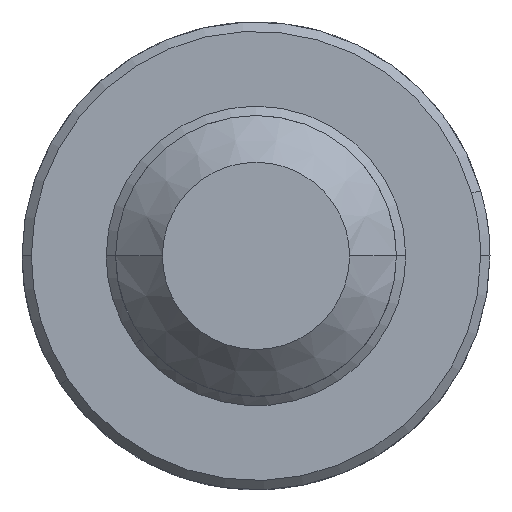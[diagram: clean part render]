
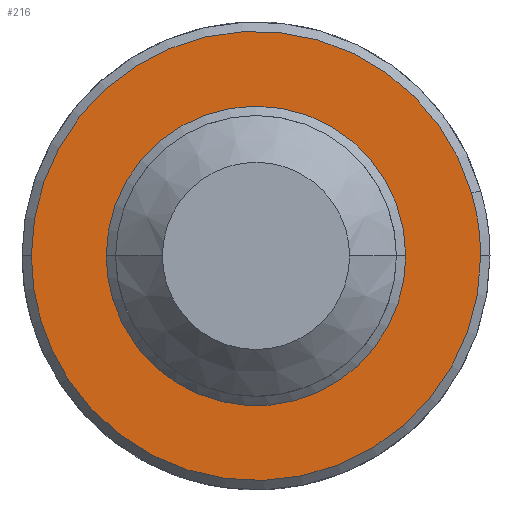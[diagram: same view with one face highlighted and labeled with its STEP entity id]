
A CAD part, front view. The second image highlights one B-rep face of the part: STEP entity #216.
In plain terms, the highlighted planar face has unit normal (0, -1, 0).
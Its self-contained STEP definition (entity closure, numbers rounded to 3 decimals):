
#121=DIRECTION('Axis2P3D Direction',(0.,1.,0.)) ;
#172=DIRECTION('Axis2P3D Direction',(0.,1.,-0.)) ;
#173=DIRECTION('Axis2P3D XDirection',(-1.,0.,0.)) ;
#177=DIRECTION('Axis2P3D Direction',(0.,1.,-0.)) ;
#186=DIRECTION('Axis2P3D Direction',(0.,1.,-0.)) ;
#193=DIRECTION('Axis2P3D Direction',(0.,1.,-0.)) ;
#200=DIRECTION('Axis2P3D Direction',(0.,1.,-0.)) ;
#47=CARTESIAN_POINT('Vertex',(-47.089,15.,-186.881)) ;
#51=CARTESIAN_POINT('Control Point',(-41.3,15.,-185.)) ;
#52=CARTESIAN_POINT('Control Point',(-41.3,15.,-185.804)) ;
#53=CARTESIAN_POINT('Control Point',(-41.553,15.,-186.608)) ;
#54=CARTESIAN_POINT('Control Point',(-42.059,15.,-187.306)) ;
#55=CARTESIAN_POINT('Control Point',(-43.433,15.,-188.284)) ;
#56=CARTESIAN_POINT('Control Point',(-45.119,15.,-188.3)) ;
#57=CARTESIAN_POINT('Control Point',(-45.939,15.,-188.034)) ;
#58=CARTESIAN_POINT('Control Point',(-46.616,15.,-187.532)) ;
#59=CARTESIAN_POINT('Control Point',(-47.089,15.,-186.881)) ;
#60=CARTESIAN_POINT('Vertex',(-41.3,15.,-185.)) ;
#94=CARTESIAN_POINT('Vertex',(-41.3,15.,-184.986)) ;
#103=CARTESIAN_POINT('Control Point',(-41.3,15.,-184.986)) ;
#104=CARTESIAN_POINT('Control Point',(-41.3,15.,-184.99)) ;
#105=CARTESIAN_POINT('Control Point',(-41.3,15.,-184.995)) ;
#106=CARTESIAN_POINT('Control Point',(-41.3,15.,-185.)) ;
#120=CARTESIAN_POINT('Axis2P3D Location',(-44.5,15.,-185.)) ;
#124=CARTESIAN_POINT('Vertex',(-47.7,15.,-185.)) ;
#158=CARTESIAN_POINT('Control Point',(-47.089,15.,-186.881)) ;
#159=CARTESIAN_POINT('Control Point',(-47.384,15.,-186.474)) ;
#160=CARTESIAN_POINT('Control Point',(-47.595,15.,-186.006)) ;
#161=CARTESIAN_POINT('Control Point',(-47.7,15.,-185.503)) ;
#162=CARTESIAN_POINT('Control Point',(-47.7,15.,-185.)) ;
#171=CARTESIAN_POINT('Axis2P3D Location',(0.,15.,0.)) ;
#176=CARTESIAN_POINT('Axis2P3D Location',(-44.5,15.,-185.)) ;
#180=CARTESIAN_POINT('Vertex',(-49.3,15.,-185.)) ;
#182=CARTESIAN_POINT('Vertex',(-48.514,15.,-187.631)) ;
#185=CARTESIAN_POINT('Axis2P3D Location',(-44.5,15.,-185.)) ;
#189=CARTESIAN_POINT('Vertex',(-39.7,15.,-185.)) ;
#192=CARTESIAN_POINT('Axis2P3D Location',(-44.5,15.,-185.)) ;
#196=CARTESIAN_POINT('Vertex',(-39.89,15.,-183.662)) ;
#199=CARTESIAN_POINT('Axis2P3D Location',(-44.5,15.,-185.)) ;
#122=AXIS2_PLACEMENT_3D('Circle Axis2P3D',#120,#121,$) ;
#174=AXIS2_PLACEMENT_3D('Plane Axis2P3D',#171,#172,#173) ;
#178=AXIS2_PLACEMENT_3D('Circle Axis2P3D',#176,#177,$) ;
#187=AXIS2_PLACEMENT_3D('Circle Axis2P3D',#185,#186,$) ;
#194=AXIS2_PLACEMENT_3D('Circle Axis2P3D',#192,#193,$) ;
#201=AXIS2_PLACEMENT_3D('Circle Axis2P3D',#199,#200,$) ;
#215=FACE_BOUND('',#210,.T.) ;
#62=EDGE_CURVE('',#61,#48,#50,.T.) ;
#107=EDGE_CURVE('',#95,#61,#102,.T.) ;
#126=EDGE_CURVE('',#125,#95,#123,.T.) ;
#163=EDGE_CURVE('',#48,#125,#157,.T.) ;
#184=EDGE_CURVE('',#181,#183,#179,.F.) ;
#191=EDGE_CURVE('',#183,#190,#188,.F.) ;
#198=EDGE_CURVE('',#190,#197,#195,.F.) ;
#203=EDGE_CURVE('',#197,#181,#202,.F.) ;
#175=PLANE('Plane',#174) ;
#205=ORIENTED_EDGE('',*,*,#184,.T.) ;
#206=ORIENTED_EDGE('',*,*,#191,.T.) ;
#207=ORIENTED_EDGE('',*,*,#198,.T.) ;
#208=ORIENTED_EDGE('',*,*,#203,.T.) ;
#211=ORIENTED_EDGE('',*,*,#126,.T.) ;
#212=ORIENTED_EDGE('',*,*,#107,.T.) ;
#213=ORIENTED_EDGE('',*,*,#62,.T.) ;
#214=ORIENTED_EDGE('',*,*,#163,.T.) ;
#216=ADVANCED_FACE('\X2\96F64EF6672C4F53FF08672A94C663A5FF09\X0\',(#209,#215),#175,.F.) ;
#123=CIRCLE('generated circle',#122,3.2) ;
#179=CIRCLE('generated circle',#178,4.8) ;
#188=CIRCLE('generated circle',#187,4.8) ;
#195=CIRCLE('generated circle',#194,4.8) ;
#202=CIRCLE('generated circle',#201,4.8) ;
#48=VERTEX_POINT('',#47) ;
#61=VERTEX_POINT('',#60) ;
#95=VERTEX_POINT('',#94) ;
#125=VERTEX_POINT('',#124) ;
#181=VERTEX_POINT('',#180) ;
#183=VERTEX_POINT('',#182) ;
#190=VERTEX_POINT('',#189) ;
#197=VERTEX_POINT('',#196) ;
#50=B_SPLINE_CURVE_WITH_KNOTS('',5,(#51,#52,#53,#54,#55,#56,#57,#58,#59),.UNSPECIFIED.,.F.,.U.,(6,3,6),(0.,125.73,251.459),.UNSPECIFIED.) ;
#102=B_SPLINE_CURVE_WITH_KNOTS('',3,(#103,#104,#105,#106),.UNSPECIFIED.,.F.,.U.,(4,4),(-0.225,0.225),.UNSPECIFIED.) ;
#157=B_SPLINE_CURVE_WITH_KNOTS('',4,(#158,#159,#160,#161,#162),.UNSPECIFIED.,.F.,.U.,(5,5),(0.,62.865),.UNSPECIFIED.) ;
#204=EDGE_LOOP('',(#205,#206,#207,#208)) ;
#210=EDGE_LOOP('',(#211,#212,#213,#214)) ;
#209=FACE_OUTER_BOUND('',#204,.T.) ;
